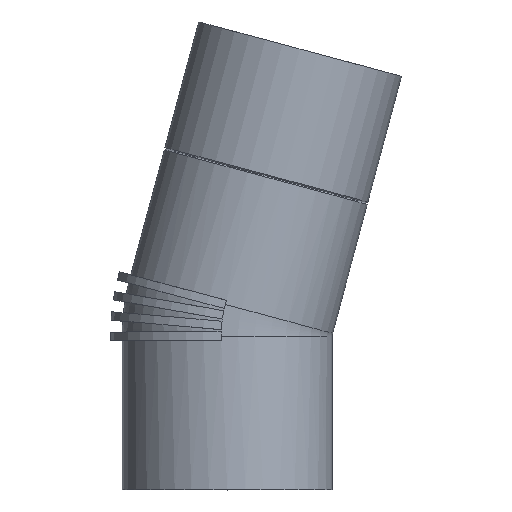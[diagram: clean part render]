
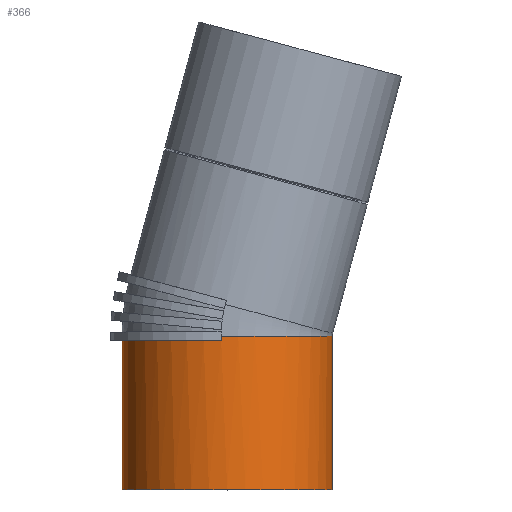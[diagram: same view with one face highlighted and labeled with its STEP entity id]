
A CAD part, top view. The second image highlights one B-rep face of the part: STEP entity #366.
In plain terms, the highlighted cylindrical face has radius 28 mm (diameter 56 mm), a full revolution.
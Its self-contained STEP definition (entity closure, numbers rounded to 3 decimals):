
#46=LINE($,#827,#50);
#47=LINE($,#830,#51);
#50=VECTOR($,#476,1.12);
#51=VECTOR($,#479,1.12);
#57=CYLINDRICAL_SURFACE($,#407,28.);
#67=FACE_BOUND($,#120,.T.);
#91=FACE_OUTER_BOUND($,#119,.T.);
#119=EDGE_LOOP($,(#307,#308,#309,#310));
#120=EDGE_LOOP($,(#311));
#144=CIRCLE($,#400,28.);
#147=CIRCLE($,#405,28.);
#148=CIRCLE($,#408,28.);
#177=VERTEX_POINT($,#772);
#178=VERTEX_POINT($,#779);
#181=VERTEX_POINT($,#826);
#182=VERTEX_POINT($,#829);
#183=VERTEX_POINT($,#836);
#219=EDGE_CURVE($,#178,#177,#144,.T.);
#223=EDGE_CURVE($,#177,#181,#46,.T.);
#225=EDGE_CURVE($,#182,#178,#47,.T.);
#227=EDGE_CURVE($,#181,#182,#147,.T.);
#228=EDGE_CURVE($,#183,#183,#148,.T.);
#307=ORIENTED_EDGE($,*,*,#223,.T.);
#308=ORIENTED_EDGE($,*,*,#227,.T.);
#309=ORIENTED_EDGE($,*,*,#225,.T.);
#310=ORIENTED_EDGE($,*,*,#219,.T.);
#311=ORIENTED_EDGE($,*,*,#228,.F.);
#366=ADVANCED_FACE($,(#91,#67),#57,.T.);
#400=AXIS2_PLACEMENT_3D($,#780,#472,#473);
#405=AXIS2_PLACEMENT_3D($,#833,#484,#485);
#407=AXIS2_PLACEMENT_3D($,#835,#488,#489);
#408=AXIS2_PLACEMENT_3D($,#837,#490,#491);
#472=DIRECTION('center_axis',(0.,-1.,0.));
#473=DIRECTION('ref_axis',(1.,0.,0.));
#476=DIRECTION($,(0.,-1.,0.));
#479=DIRECTION($,(0.,1.,0.));
#484=DIRECTION('center_axis',(0.,-1.,0.));
#485=DIRECTION('ref_axis',(1.,0.,0.));
#488=DIRECTION('center_axis',(0.,-1.,0.));
#489=DIRECTION('ref_axis',(1.,0.,0.));
#490=DIRECTION('center_axis',(0.,-1.,0.));
#491=DIRECTION('ref_axis',(1.,0.,0.));
#772=CARTESIAN_POINT('',(-1.6,40.919,27.954));
#779=CARTESIAN_POINT('',(-1.6,40.919,-27.954));
#780=CARTESIAN_POINT('Origin',(0.,40.919,0.));
#826=CARTESIAN_POINT('',(-1.6,39.799,27.954));
#827=CARTESIAN_POINT($,(-1.6,40.919,27.954));
#829=CARTESIAN_POINT('',(-1.6,39.799,-27.954));
#830=CARTESIAN_POINT($,(-1.6,40.919,-27.954));
#833=CARTESIAN_POINT('Origin',(0.,39.799,0.));
#835=CARTESIAN_POINT('Origin',(0.,20.459,0.));
#836=CARTESIAN_POINT('',(28.,0.,0.));
#837=CARTESIAN_POINT('Origin',(0.,0.,0.));
